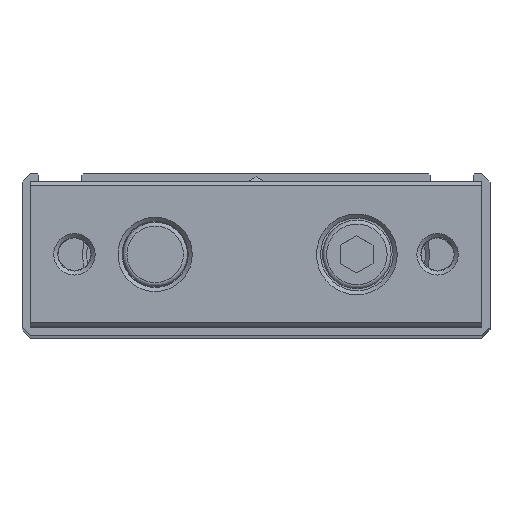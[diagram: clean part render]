
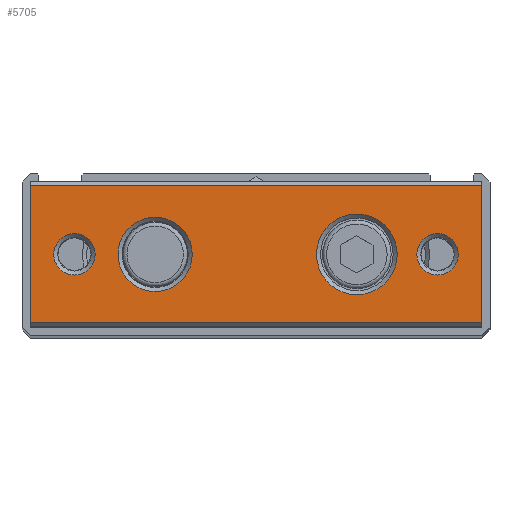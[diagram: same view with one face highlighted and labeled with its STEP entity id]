
A CAD part, top view. The second image highlights one B-rep face of the part: STEP entity #5705.
In plain terms, the highlighted planar face has unit normal (0, 0, 1).
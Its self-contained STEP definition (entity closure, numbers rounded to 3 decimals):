
#3656=CARTESIAN_POINT('',(-28.,-8.5,214.0));
#3657=VERTEX_POINT('',#3656);
#3664=CARTESIAN_POINT('',(-28.,8.5,214.0));
#3665=VERTEX_POINT('',#3664);
#3666=CARTESIAN_POINT('',(-28.,8.5,214.0));
#3667=DIRECTION('',(0.0,-1.0,0.0));
#3668=VECTOR('',#3667,17.0);
#3669=LINE('',#3666,#3668);
#3670=EDGE_CURVE('',#3665,#3657,#3669,.T.);
#3856=CARTESIAN_POINT('',(28.,-8.5,214.0));
#3857=VERTEX_POINT('',#3856);
#3864=CARTESIAN_POINT('',(28.,-8.5,214.0));
#3865=DIRECTION('',(-1.0,0.0,0.0));
#3866=VECTOR('',#3865,56.);
#3867=LINE('',#3864,#3866);
#3868=EDGE_CURVE('',#3857,#3657,#3867,.T.);
#3935=CARTESIAN_POINT('',(28.,8.5,214.0));
#3936=VERTEX_POINT('',#3935);
#3943=CARTESIAN_POINT('',(28.,-8.5,214.0));
#3944=DIRECTION('',(0.0,1.0,0.0));
#3945=VECTOR('',#3944,17.0);
#3946=LINE('',#3943,#3945);
#3947=EDGE_CURVE('',#3857,#3936,#3946,.T.);
#5641=CARTESIAN_POINT('',(17.5,0.,214.0));
#5642=VERTEX_POINT('',#5641);
#5643=CARTESIAN_POINT('',(12.5,0.,214.0));
#5644=DIRECTION('',(0.0,0.0,1.0));
#5645=DIRECTION('',(-1.0,0.0,0.0));
#5646=AXIS2_PLACEMENT_3D('',#5643,#5644,#5645);
#5647=CIRCLE('',#5646,5.0);
#5648=EDGE_CURVE('',#5642,#5642,#5647,.T.);
#5653=CARTESIAN_POINT('',(0.0,-9.,214.0));
#5654=DIRECTION('',(0.0,0.0,1.0));
#5655=DIRECTION('',(1.0,0.0,0.0));
#5656=AXIS2_PLACEMENT_3D('',#5653,#5654,#5655);
#5657=PLANE('',#5656);
#5658=ORIENTED_EDGE('',*,*,#3868,.F.);
#5659=ORIENTED_EDGE('',*,*,#3947,.T.);
#5660=CARTESIAN_POINT('',(-28.,8.5,214.0));
#5661=DIRECTION('',(1.0,0.0,0.0));
#5662=VECTOR('',#5661,56.);
#5663=LINE('',#5660,#5662);
#5664=EDGE_CURVE('',#3665,#3936,#5663,.T.);
#5665=ORIENTED_EDGE('',*,*,#5664,.F.);
#5666=ORIENTED_EDGE('',*,*,#3670,.T.);
#5667=EDGE_LOOP('',(#5658,#5659,#5665,#5666));
#5668=FACE_OUTER_BOUND('',#5667,.T.);
#5669=CARTESIAN_POINT('',(-7.9,0.,214.0));
#5670=VERTEX_POINT('',#5669);
#5671=CARTESIAN_POINT('',(-12.5,0.,214.0));
#5672=DIRECTION('',(0.0,0.0,1.0));
#5673=DIRECTION('',(-1.0,0.0,0.0));
#5674=AXIS2_PLACEMENT_3D('',#5671,#5672,#5673);
#5675=CIRCLE('',#5674,4.6);
#5676=EDGE_CURVE('',#5670,#5670,#5675,.T.);
#5677=ORIENTED_EDGE('',*,*,#5676,.F.);
#5678=EDGE_LOOP('',(#5677));
#5679=FACE_BOUND('',#5678,.T.);
#5680=CARTESIAN_POINT('',(-19.933,0.,214.0));
#5681=VERTEX_POINT('',#5680);
#5682=CARTESIAN_POINT('',(-22.5,0.,214.0));
#5683=DIRECTION('',(0.0,0.0,1.0));
#5684=DIRECTION('',(-1.0,0.0,0.0));
#5685=AXIS2_PLACEMENT_3D('',#5682,#5683,#5684);
#5686=CIRCLE('',#5685,2.567);
#5687=EDGE_CURVE('',#5681,#5681,#5686,.T.);
#5688=ORIENTED_EDGE('',*,*,#5687,.F.);
#5689=EDGE_LOOP('',(#5688));
#5690=FACE_BOUND('',#5689,.T.);
#5691=CARTESIAN_POINT('',(25.067,0.,214.0));
#5692=VERTEX_POINT('',#5691);
#5693=CARTESIAN_POINT('',(22.5,0.,214.0));
#5694=DIRECTION('',(0.0,0.0,1.0));
#5695=DIRECTION('',(-1.0,0.0,0.0));
#5696=AXIS2_PLACEMENT_3D('',#5693,#5694,#5695);
#5697=CIRCLE('',#5696,2.567);
#5698=EDGE_CURVE('',#5692,#5692,#5697,.T.);
#5699=ORIENTED_EDGE('',*,*,#5698,.F.);
#5700=EDGE_LOOP('',(#5699));
#5701=FACE_BOUND('',#5700,.T.);
#5702=ORIENTED_EDGE('',*,*,#5648,.F.);
#5703=EDGE_LOOP('',(#5702));
#5704=FACE_BOUND('',#5703,.T.);
#5705=ADVANCED_FACE('',(#5668,#5679,#5690,#5701,#5704),#5657,.T.);
